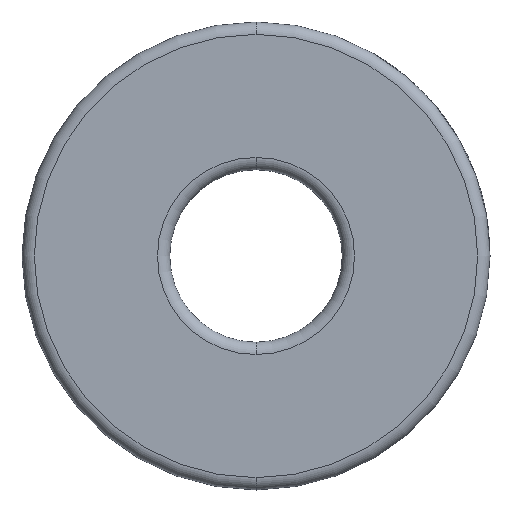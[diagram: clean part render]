
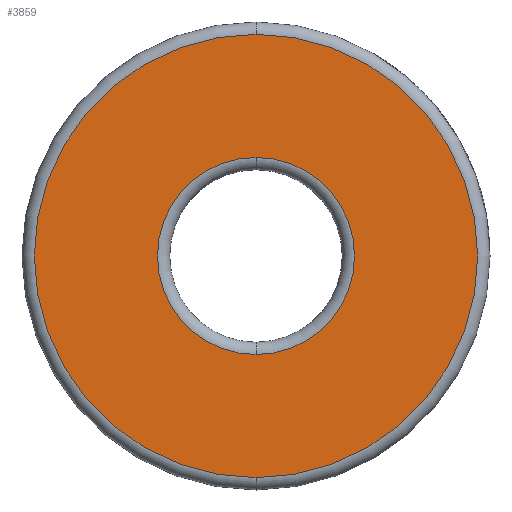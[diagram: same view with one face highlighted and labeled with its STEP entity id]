
A CAD part, front view. The second image highlights one B-rep face of the part: STEP entity #3859.
In plain terms, the highlighted planar face has unit normal (0, -1, 0).
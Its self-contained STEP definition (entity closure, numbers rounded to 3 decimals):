
#65 = VERTEX_POINT ( 'NONE', #6267 ) ;
#871 = CIRCLE ( 'NONE', #2441, 4. ) ;
#955 = PLANE ( 'NONE',  #1640 ) ;
#1335 = ORIENTED_EDGE ( 'NONE', *, *, #3416, .T. ) ;
#1436 = CARTESIAN_POINT ( 'NONE',  ( 0., 0., 0. ) ) ;
#1600 = AXIS2_PLACEMENT_3D ( 'NONE', #5468, #2475, #6005 ) ;
#1640 = AXIS2_PLACEMENT_3D ( 'NONE', #5445, #3031, #6588 ) ;
#1971 = DIRECTION ( 'NONE',  ( 0., 0., 1. ) ) ;
#1978 = CARTESIAN_POINT ( 'NONE',  ( 0., 0., 0. ) ) ;
#2109 = FACE_OUTER_BOUND ( 'NONE', #3485, .T. ) ;
#2249 = CARTESIAN_POINT ( 'NONE',  ( 0., 0., 0. ) ) ;
#2441 = AXIS2_PLACEMENT_3D ( 'NONE', #1436, #4962, #1971 ) ;
#2475 = DIRECTION ( 'NONE',  ( 0., 1., 0. ) ) ;
#2497 = DIRECTION ( 'NONE',  ( 0., 0., 1. ) ) ;
#2552 = ORIENTED_EDGE ( 'NONE', *, *, #5736, .T. ) ;
#2648 = AXIS2_PLACEMENT_3D ( 'NONE', #1978, #5491, #2497 ) ;
#2766 = DIRECTION ( 'NONE',  ( 0., 0., 1. ) ) ;
#2822 = CIRCLE ( 'NONE', #2648, 9. ) ;
#3031 = DIRECTION ( 'NONE',  ( 0., 1., 0. ) ) ;
#3145 = CARTESIAN_POINT ( 'NONE',  ( 0., 0., 4. ) ) ;
#3319 = VERTEX_POINT ( 'NONE', #3145 ) ;
#3416 = EDGE_CURVE ( 'NONE', #4165, #4395, #5403, .T. ) ;
#3485 = EDGE_LOOP ( 'NONE', ( #3866, #1335 ) ) ;
#3859 = ADVANCED_FACE ( 'NONE', ( #6158, #2109 ), #955, .F. ) ;
#3866 = ORIENTED_EDGE ( 'NONE', *, *, #5781, .T. ) ;
#4126 = CIRCLE ( 'NONE', #1600, 4. ) ;
#4165 = VERTEX_POINT ( 'NONE', #4598 ) ;
#4395 = VERTEX_POINT ( 'NONE', #6464 ) ;
#4598 = CARTESIAN_POINT ( 'NONE',  ( 0., 0., -9. ) ) ;
#4813 = AXIS2_PLACEMENT_3D ( 'NONE', #2249, #5772, #2766 ) ;
#4962 = DIRECTION ( 'NONE',  ( 0., 1., 0. ) ) ;
#5093 = EDGE_LOOP ( 'NONE', ( #6435, #2552 ) ) ;
#5403 = CIRCLE ( 'NONE', #4813, 9. ) ;
#5445 = CARTESIAN_POINT ( 'NONE',  ( 0., 0., 0. ) ) ;
#5468 = CARTESIAN_POINT ( 'NONE',  ( 0., 0., 0. ) ) ;
#5472 = EDGE_CURVE ( 'NONE', #3319, #65, #871, .T. ) ;
#5491 = DIRECTION ( 'NONE',  ( 0., -1., 0. ) ) ;
#5736 = EDGE_CURVE ( 'NONE', #65, #3319, #4126, .T. ) ;
#5772 = DIRECTION ( 'NONE',  ( 0., -1., 0. ) ) ;
#5781 = EDGE_CURVE ( 'NONE', #4395, #4165, #2822, .T. ) ;
#6005 = DIRECTION ( 'NONE',  ( 0., 0., 1. ) ) ;
#6158 = FACE_BOUND ( 'NONE', #5093, .T. ) ;
#6267 = CARTESIAN_POINT ( 'NONE',  ( 0., 0., -4. ) ) ;
#6435 = ORIENTED_EDGE ( 'NONE', *, *, #5472, .T. ) ;
#6464 = CARTESIAN_POINT ( 'NONE',  ( 0., 0., 9. ) ) ;
#6588 = DIRECTION ( 'NONE',  ( 0., 0., 1. ) ) ;
